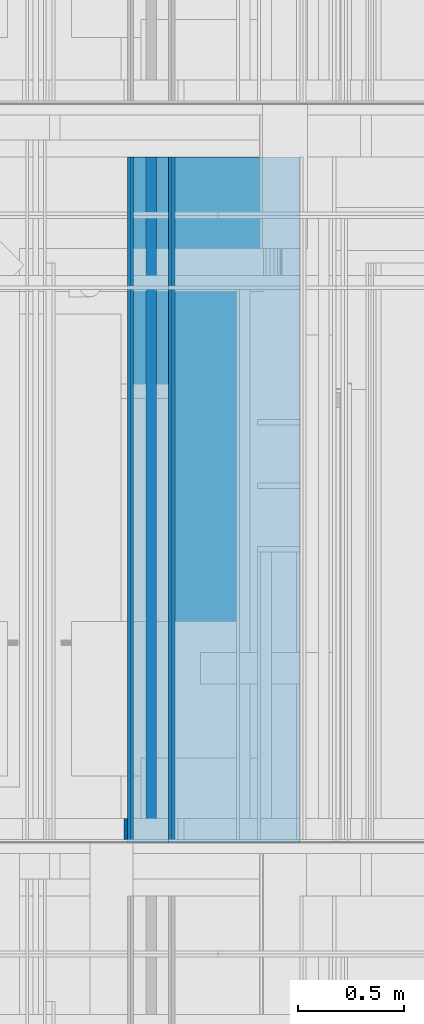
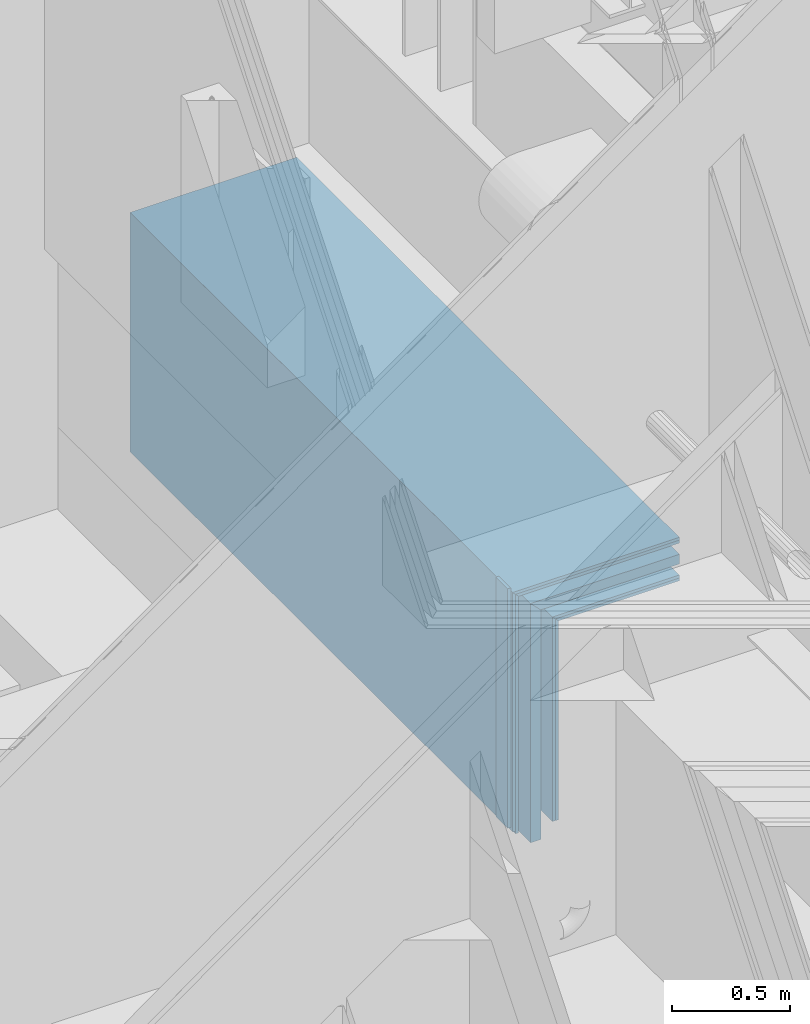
# One storey, part 15 of 583: 11 walls.
"""IFC2X3 building model written with IfcOpenShell, lengths in metres."""

from ifc_helpers import new_model, entity, si_unit, converted_unit, derived_unit, money_unit, direction, frame, frame_2d, origin_with_axes, place, context, subcontext, project, spatial, polyline, rectangle, outline, extrude, material, type_object, element, save


model = new_model("IFC2X3")

# Units and contexts
model_context = context("Model", 3, precision=1e-05, world=origin_with_axes(), true_north=direction((0.0, 1.0)))
body_context = subcontext(model_context, "Body", "Model", "MODEL_VIEW", scale=1.0)
ifc_project = project(units=[si_unit("LENGTHUNIT", "METRE"), si_unit("AREAUNIT", "SQUARE_METRE"), si_unit("VOLUMEUNIT", "CUBIC_METRE"), si_unit("ABSORBEDDOSEUNIT", "GRAY"), si_unit("AMOUNTOFSUBSTANCEUNIT", "MOLE"), si_unit("DOSEEQUIVALENTUNIT", "SIEVERT"), si_unit("ELECTRICCAPACITANCEUNIT", "FARAD"), si_unit("ELECTRICCHARGEUNIT", "COULOMB"), si_unit("ELECTRICCONDUCTANCEUNIT", "SIEMENS"), si_unit("ELECTRICCURRENTUNIT", "AMPERE"), si_unit("ELECTRICRESISTANCEUNIT", "OHM"), si_unit("ELECTRICVOLTAGEUNIT", "VOLT"), si_unit("ENERGYUNIT", "JOULE"), si_unit("FORCEUNIT", "NEWTON"), si_unit("FREQUENCYUNIT", "HERTZ"), si_unit("ILLUMINANCEUNIT", "LUX"), si_unit("INDUCTANCEUNIT", "HENRY"), si_unit("LUMINOUSFLUXUNIT", "LUMEN"), si_unit("LUMINOUSINTENSITYUNIT", "CANDELA"), si_unit("MAGNETICFLUXDENSITYUNIT", "TESLA"), si_unit("MAGNETICFLUXUNIT", "WEBER"), si_unit("MASSUNIT", "GRAM"), converted_unit("PLANEANGLEUNIT", "degree", entity("IfcReal", 0.0174532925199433), si_unit("PLANEANGLEUNIT", "RADIAN"), dimensions=[0, 0, 0, 0, 0, 0, 0]), si_unit("POWERUNIT", "WATT"), si_unit("PRESSUREUNIT", "PASCAL"), si_unit("RADIOACTIVITYUNIT", "BECQUEREL"), si_unit("SOLIDANGLEUNIT", "STERADIAN"), si_unit("THERMODYNAMICTEMPERATUREUNIT", "KELVIN"), si_unit("TIMEUNIT", "SECOND"), derived_unit("ACCELERATIONUNIT", [(si_unit("LENGTHUNIT", "METRE"), 1), (si_unit("TIMEUNIT", "SECOND"), -2)]), derived_unit("ANGULARVELOCITYUNIT", [(converted_unit("PLANEANGLEUNIT", "degree", entity("IfcReal", 0.0174532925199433), si_unit("PLANEANGLEUNIT", "RADIAN"), dimensions=[0, 0, 0, 0, 0, 0, 0]), 1), (si_unit("TIMEUNIT", "SECOND"), -1)]), derived_unit("CURVATUREUNIT", [(converted_unit("PLANEANGLEUNIT", "degree", entity("IfcReal", 0.0174532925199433), si_unit("PLANEANGLEUNIT", "RADIAN"), dimensions=[0, 0, 0, 0, 0, 0, 0]), 1), (si_unit("LENGTHUNIT", "METRE"), -1)]), derived_unit("DYNAMICVISCOSITYUNIT", [(si_unit("PRESSUREUNIT", "PASCAL"), 1), (si_unit("TIMEUNIT", "SECOND"), 1)]), derived_unit("HEATFLUXDENSITYUNIT", [(si_unit("POWERUNIT", "WATT"), 1), (si_unit("LENGTHUNIT", "METRE"), -2)]), derived_unit("HEATINGVALUEUNIT", [(si_unit("ENERGYUNIT", "JOULE"), 1), (si_unit("MASSUNIT", "GRAM"), -1)]), derived_unit("INTEGERCOUNTRATEUNIT", [(si_unit("TIMEUNIT", "SECOND"), -1)]), derived_unit("IONCONCENTRATIONUNIT", [(si_unit("MASSUNIT", "GRAM"), 1), (si_unit("VOLUMEUNIT", "CUBIC_METRE"), -1)]), derived_unit("ISOTHERMALMOISTURECAPACITYUNIT", [(si_unit("VOLUMEUNIT", "CUBIC_METRE"), 1), (si_unit("MASSUNIT", "GRAM"), -1)]), derived_unit("KINEMATICVISCOSITYUNIT", [(si_unit("AREAUNIT", "SQUARE_METRE"), 1), (si_unit("TIMEUNIT", "SECOND"), -1)]), derived_unit("LINEARFORCEUNIT", [(si_unit("FORCEUNIT", "NEWTON"), 1), (si_unit("LENGTHUNIT", "METRE"), -1)]), derived_unit("LINEARMOMENTUNIT", [(si_unit("FORCEUNIT", "NEWTON"), 1), (si_unit("LENGTHUNIT", "METRE"), -1)]), derived_unit("LINEARSTIFFNESSUNIT", [(si_unit("FORCEUNIT", "NEWTON"), 1), (si_unit("LENGTHUNIT", "METRE"), -1)]), derived_unit("LINEARVELOCITYUNIT", [(si_unit("LENGTHUNIT", "METRE"), 1), (si_unit("TIMEUNIT", "SECOND"), -1)]), derived_unit("LUMINOUSINTENSITYDISTRIBUTIONUNIT", [(si_unit("LUMINOUSINTENSITYUNIT", "CANDELA"), 1), (si_unit("LUMINOUSFLUXUNIT", "LUMEN"), -1)]), derived_unit("MASSDENSITYUNIT", [(si_unit("MASSUNIT", "GRAM"), 1), (si_unit("VOLUMEUNIT", "CUBIC_METRE"), -1)]), derived_unit("MASSFLOWRATEUNIT", [(si_unit("MASSUNIT", "GRAM"), 1), (si_unit("TIMEUNIT", "SECOND"), -1)]), derived_unit("MASSPERLENGTHUNIT", [(si_unit("MASSUNIT", "GRAM"), 1), (si_unit("LENGTHUNIT", "METRE"), -1)]), derived_unit("MODULUSOFELASTICITYUNIT", [(si_unit("FORCEUNIT", "NEWTON"), 1), (si_unit("AREAUNIT", "SQUARE_METRE"), -1)]), derived_unit("MODULUSOFLINEARSUBGRADEREACTIONUNIT", [(si_unit("FORCEUNIT", "NEWTON"), 1), (si_unit("LENGTHUNIT", "METRE"), -2)]), derived_unit("MODULUSOFROTATIONALSUBGRADEREACTIONUNIT", [(si_unit("FORCEUNIT", "NEWTON"), 1), (si_unit("LENGTHUNIT", "METRE"), 1)]), derived_unit("MODULUSOFSUBGRADEREACTIONUNIT", [(si_unit("FORCEUNIT", "NEWTON"), 1), (si_unit("VOLUMEUNIT", "CUBIC_METRE"), -1)]), derived_unit("MOISTUREDIFFUSIVITYUNIT", [(si_unit("VOLUMEUNIT", "CUBIC_METRE"), 1), (si_unit("TIMEUNIT", "SECOND"), -1)]), derived_unit("MOLECULARWEIGHTUNIT", [(si_unit("MASSUNIT", "GRAM"), 1), (si_unit("AMOUNTOFSUBSTANCEUNIT", "MOLE"), -1)]), derived_unit("PLANARFORCEUNIT", [(si_unit("FORCEUNIT", "NEWTON"), 1), (si_unit("LENGTHUNIT", "METRE"), -2)]), derived_unit("ROTATIONALFREQUENCYUNIT", [(si_unit("TIMEUNIT", "SECOND"), -1)]), derived_unit("ROTATIONALMASSUNIT", [(si_unit("MASSUNIT", "GRAM"), 1), (si_unit("LENGTHUNIT", "METRE"), 2)]), derived_unit("ROTATIONALSTIFFNESSUNIT", [(si_unit("FORCEUNIT", "NEWTON"), 1), (si_unit("LENGTHUNIT", "METRE"), 1), (converted_unit("PLANEANGLEUNIT", "degree", entity("IfcReal", 0.0174532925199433), si_unit("PLANEANGLEUNIT", "RADIAN"), dimensions=[0, 0, 0, 0, 0, 0, 0]), -1)]), derived_unit("SECTIONAREAINTEGRALUNIT", [(si_unit("LENGTHUNIT", "METRE"), 5)]), derived_unit("SECTIONMODULUSUNIT", [(si_unit("LENGTHUNIT", "METRE"), 3)]), derived_unit("SHEARMODULUSUNIT", [(si_unit("FORCEUNIT", "NEWTON"), 1), (si_unit("AREAUNIT", "SQUARE_METRE"), -1)]), derived_unit("SOUNDPOWERUNIT", [(si_unit("ENERGYUNIT", "JOULE"), 1), (si_unit("TIMEUNIT", "SECOND"), -1)]), derived_unit("SPECIFICHEATCAPACITYUNIT", [(si_unit("FORCEUNIT", "NEWTON"), 1), (si_unit("MASSUNIT", "GRAM"), -1), (si_unit("THERMODYNAMICTEMPERATUREUNIT", "KELVIN"), -1)]), derived_unit("TEMPERATUREGRADIENTUNIT", [(si_unit("THERMODYNAMICTEMPERATUREUNIT", "KELVIN"), 1), (si_unit("LENGTHUNIT", "METRE"), -1)]), derived_unit("THERMALADMITTANCEUNIT", [(si_unit("POWERUNIT", "WATT"), 1), (si_unit("AREAUNIT", "SQUARE_METRE"), -1), (si_unit("THERMODYNAMICTEMPERATUREUNIT", "KELVIN"), -1)]), derived_unit("THERMALCONDUCTANCEUNIT", [(si_unit("POWERUNIT", "WATT"), 1), (si_unit("LENGTHUNIT", "METRE"), -1), (si_unit("THERMODYNAMICTEMPERATUREUNIT", "KELVIN"), -1)]), derived_unit("THERMALEXPANSIONCOEFFICIENTUNIT", [(si_unit("THERMODYNAMICTEMPERATUREUNIT", "KELVIN"), -1)]), derived_unit("THERMALRESISTANCEUNIT", [(si_unit("AREAUNIT", "SQUARE_METRE"), 1), (si_unit("POWERUNIT", "WATT"), -1)]), derived_unit("THERMALTRANSMITTANCEUNIT", [(si_unit("POWERUNIT", "WATT"), 1), (si_unit("AREAUNIT", "SQUARE_METRE"), -1), (si_unit("THERMODYNAMICTEMPERATUREUNIT", "KELVIN"), -1)]), derived_unit("TORQUEUNIT", [(si_unit("FORCEUNIT", "NEWTON"), 1), (si_unit("LENGTHUNIT", "METRE"), 1)]), derived_unit("VAPORPERMEABILITYUNIT", [(si_unit("MASSUNIT", "GRAM"), 1), (si_unit("TIMEUNIT", "SECOND"), -1)]), derived_unit("VOLUMETRICFLOWRATEUNIT", [(si_unit("VOLUMEUNIT", "CUBIC_METRE"), 1), (si_unit("TIMEUNIT", "SECOND"), -1)]), derived_unit("WARPINGCONSTANTUNIT", [(si_unit("LENGTHUNIT", "METRE"), 6)]), derived_unit("WARPINGMOMENTUNIT", [(si_unit("FORCEUNIT", "NEWTON"), 1), (si_unit("LENGTHUNIT", "METRE"), 2)]), money_unit("GBP")], contexts=[model_context])

# Site, building, storey
site_placement = place(None, origin_with_axes())
site = spatial("IfcSite", under=ifc_project, at=site_placement, Name="Site", CompositionType="ELEMENT")
building_placement = place(site_placement, origin_with_axes())
building = spatial("IfcBuilding", under=site, at=building_placement, Name="Building01", CompositionType="ELEMENT")
storey_placement = place(building_placement, frame((0.0, 0.0, 20.78), z_axis=(0.0, 0.0, 1.0), x_axis=(1.0, 0.0, 0.0)))
storey = spatial("IfcBuildingStorey", under=building, at=storey_placement, Name="RL", CompositionType="ELEMENT", Elevation=20.78)

# Walls
ifc_material_1 = material(Name="A_BSUK_WallInternal_Finishes_Plasterboard")
wall_type = type_object("IfcWallType", Name="default", PredefinedType="NOTDEFINED")
wall_1_placement = place(storey_placement, frame((4.389428, 8.64, -6.155), z_axis=(0.0, 1.0, 0.0), x_axis=(0.0, 0.0, -1.0)))
element("IfcWall", 1, at=wall_1_placement, inside=storey, type_object=wall_type, material=ifc_material_1, Name="default", ObjectType="default", context=body_context, shape_type="SweptSolid", body=[
    extrude(outline(polyline([(1.0275, 0.015), (-0.015, 0.015), (0.0, 0.0), (1.0275, 0.0), (1.0275, 0.015)])), origin_with_axes(), (0.0, 0.0, 1.0), 3.24),
])
wall_2_placement = place(storey_placement, frame((4.374428, 8.64, -6.14), z_axis=(0.0, 1.0, 0.0), x_axis=(0.0, 0.0, -1.0)))
element("IfcWall", 2, at=wall_2_placement, inside=storey, type_object=wall_type, material=ifc_material_1, Name="default", ObjectType="default", context=body_context, shape_type="SweptSolid", body=[
    extrude(outline(polyline([(1.0425, 0.015), (-0.015, 0.015), (0.0, 0.0), (1.0425, 0.0), (1.0425, 0.015)])), origin_with_axes(), (0.0, 0.0, 1.0), 3.24),
])
ifc_material_2 = material(Name="A_BSUK_Insulation")
wall_3_placement = place(storey_placement, frame((4.302428, 8.64, -6.068), z_axis=(0.0, 1.0, 0.0), x_axis=(0.0, 0.0, -1.0)))
element("IfcWall", 3, at=wall_3_placement, inside=storey, type_object=wall_type, material=ifc_material_2, Name="default", ObjectType="default", context=body_context, shape_type="SweptSolid", body=[
    extrude(outline(polyline([(1.1865, 0.05), (-0.05, 0.05), (0.0, 0.0), (1.1865, 0.0), (1.1865, 0.05)])), origin_with_axes(), (0.0, 0.0, 1.0), 3.24),
])
for number, where, z_axis, x_axis, name in (
    (4, (4.194428, 8.64, -5.96), (0.0, 1.0, 0.0), (0.0, 0.0, -1.0), "default"),
    (5, (4.179428, 8.64, -5.945), (0.0, 1.0, 0.0), (0.0, 0.0, -1.0), "default"),
):
    element("IfcWall", number, at=place(storey_placement, frame(where, z_axis=z_axis, x_axis=x_axis)), inside=storey, type_object=wall_type, material=ifc_material_1, Name=name, ObjectType="default", context=body_context, shape_type="SweptSolid", body=[
        extrude(outline(polyline([(1.2225, 0.015), (-0.015, 0.015), (0.0, 0.0), (1.2225, 0.0), (1.2225, 0.015)])), origin_with_axes(), (0.0, 0.0, 1.0), 3.24),
    ])
ifc_material_3 = material(Name="A_BSUK_Walls_Timber")
wall_4_placement = place(storey_placement, frame((4.164428, 8.655, -5.915), z_axis=(0.0, 1.0, 0.0), x_axis=(0.0, 0.0, -1.0)))
element("IfcWall", 6, at=wall_4_placement, inside=storey, type_object=wall_type, material=ifc_material_3, Name="default", ObjectType="default", context=body_context, shape_type="SweptSolid", body=[
    extrude(rectangle(XDim=1.2375, YDim=0.015, at=frame_2d((0.61875, 0.0075), x_axis=(-1.0, 0.0))), origin_with_axes(), (0.0, 0.0, 1.0), 0.1),
])
wall_5_placement = place(storey_placement, frame((4.98, 8.64, -6.155), z_axis=(0.0, 1.0, 0.0), x_axis=(-1.0, 0.0, 0.0)))
element("IfcWall", 7, at=wall_5_placement, inside=storey, type_object=wall_type, material=ifc_material_1, Name="default", ObjectType="default", context=body_context, shape_type="SweptSolid", body=[
    extrude(outline(polyline([(0.605572, 0.015), (0.0, 0.015), (0.0, 0.0), (0.590572, 0.0), (0.605572, 0.015)])), origin_with_axes(), (0.0, 0.0, 1.0), 3.24),
])
wall_6_placement = place(storey_placement, frame((4.98, 8.64, -6.14), z_axis=(0.0, 1.0, 0.0), x_axis=(-1.0, 0.0, 0.0)))
element("IfcWall", 8, at=wall_6_placement, inside=storey, type_object=wall_type, material=ifc_material_1, Name="default", ObjectType="default", context=body_context, shape_type="SweptSolid", body=[
    extrude(outline(polyline([(0.620572, 0.015), (0.0, 0.015), (0.0, 0.0), (0.605572, 0.0), (0.620572, 0.015)])), origin_with_axes(), (0.0, 0.0, 1.0), 3.24),
])
wall_7_placement = place(storey_placement, frame((4.98, 8.64, -6.068), z_axis=(0.0, 1.0, 0.0), x_axis=(-1.0, 0.0, 0.0)))
element("IfcWall", 9, at=wall_7_placement, inside=storey, type_object=wall_type, material=ifc_material_2, Name="default", ObjectType="default", context=body_context, shape_type="SweptSolid", body=[
    extrude(outline(polyline([(0.727572, 0.05), (0.0, 0.05), (0.0, 0.0), (0.677572, 0.0), (0.727572, 0.05)])), origin_with_axes(), (0.0, 0.0, 1.0), 3.24),
])
wall_8_placement = place(storey_placement, frame((4.98, 8.64, -5.96), z_axis=(0.0, 1.0, 0.0), x_axis=(-1.0, 0.0, 0.0)))
element("IfcWall", 10, at=wall_8_placement, inside=storey, type_object=wall_type, material=ifc_material_1, Name="default", ObjectType="default", context=body_context, shape_type="SweptSolid", body=[
    extrude(outline(polyline([(0.800572, 0.015), (0.0, 0.015), (0.0, 0.0), (0.785572, 0.0), (0.800572, 0.015)])), origin_with_axes(), (0.0, 0.0, 1.0), 3.24),
])
wall_9_placement = place(storey_placement, frame((4.98, 8.64, -5.945), z_axis=(0.0, 1.0, 0.0), x_axis=(-1.0, 0.0, 0.0)))
element("IfcWall", 11, at=wall_9_placement, inside=storey, type_object=wall_type, material=ifc_material_1, Name="default", ObjectType="default", context=body_context, shape_type="SweptSolid", body=[
    extrude(outline(polyline([(0.815572, 0.015), (0.0, 0.015), (0.0, 0.0), (0.800572, 0.0), (0.815572, 0.015)])), origin_with_axes(), (0.0, 0.0, 1.0), 3.24),
])

save(model, "model.ifc")
